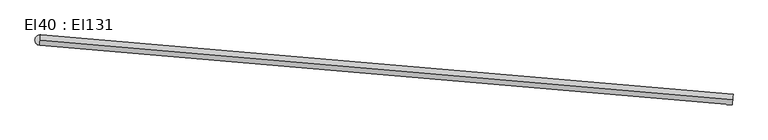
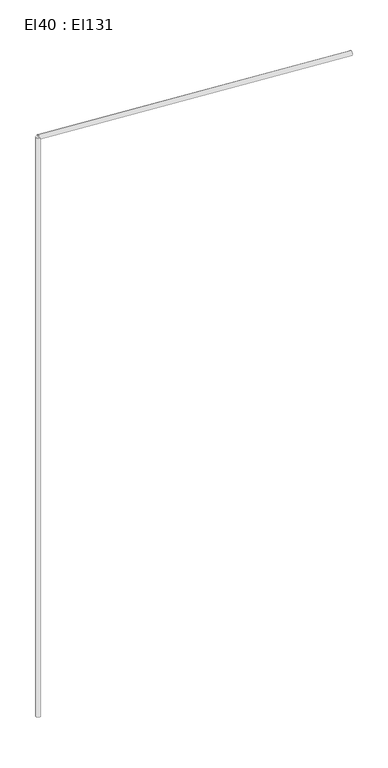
"""IFC4 building model written with IfcOpenShell, lengths in millimetres: cable carrier segment geometry, El40 : El131."""

from ifc_helpers import new_model, si_unit, point, frame, frame_2d, origin, place, context, project, spatial, circle_curve, trimmed, segment, composite_curve, outline, extrude, source, transform, mapped, element, save


def el40_el131_f582b128(model_context):
    return source(origin(), model_context, "Body", "SweptSolid", [
        extrude(outline(composite_curve([segment(trimmed(circle_curve(frame_2d((25144.5046511, 952.6168745)), 9.5), [point((25135.0046511, 952.6168745))], [point((25154.0046511, 952.6168745))], False, "CARTESIAN"), True, "CONTINUOUS"), segment(trimmed(circle_curve(frame_2d((25144.5046511, 952.6168745)), 9.5), [point((25154.0046511, 952.6168745))], [point((25135.0046511, 952.6168745))], False, "CARTESIAN"), True, "CONTINUOUS")], self_intersect=False)), frame((0.0, 0.0, 1830.0), z_axis=(0.0, 0.0, 1.0), x_axis=(1.0, 0.0, 0.0)), (0.0, 0.0, 1.0), 2620.0),
        extrude(outline(composite_curve([segment(trimmed(circle_curve(frame_2d((0.0, -9.5)), 9.5), [point((0.0, -19.0))], [point((0.0, 0.0))], False, "CARTESIAN"), True, "CONTINUOUS"), segment(trimmed(circle_curve(frame_2d((0.0, -9.5)), 9.5), [point((0.0, 0.0))], [point((0.0, -19.0))], False, "CARTESIAN"), True, "CONTINUOUS")], self_intersect=False)), frame((26420.5316511, 842.9926745, 4459.5), z_axis=(-0.9963299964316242, 0.08559519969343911, 0.0), x_axis=(-0.08559519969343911, -0.9963299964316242, 0.0)), (0.0, 0.0, 1.0), 1280.73),
    ])


if __name__ == "__main__":
    model = new_model("IFC4")
    model_context = context("Model", 3, world=origin())
    ifc_project = project(units=[si_unit("LENGTHUNIT", "METRE", prefix="MILLI")], contexts=[model_context])
    site = spatial("IfcSite", under=ifc_project)
    building = spatial("IfcBuilding", under=site)
    placement = place(None, origin())
    el40_el131_shape = el40_el131_f582b128(model_context)
    element("IfcCableCarrierSegment", 1, ObjectType="El40 : El131", at=placement, inside=building, context=model_context, shape_type="MappedRepresentation", body=[
        mapped(el40_el131_shape, transform((0.0, 0.0, 0.0), x_axis=(1.0, 0.0, 0.0), y_axis=(0.0, 1.0, 0.0), z_axis=(0.0, 0.0, 1.0))),
    ])
    save(model, "model.ifc")
